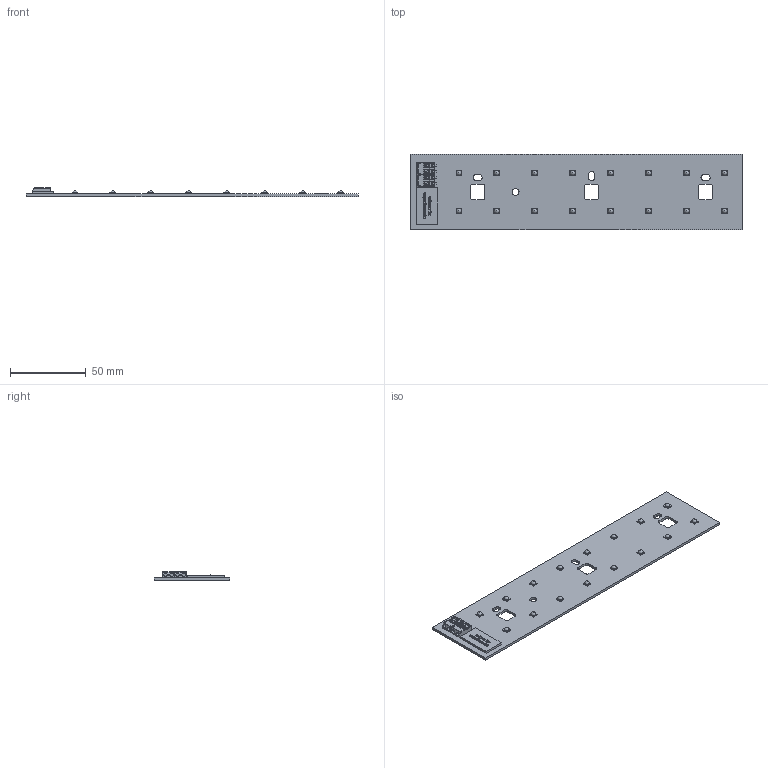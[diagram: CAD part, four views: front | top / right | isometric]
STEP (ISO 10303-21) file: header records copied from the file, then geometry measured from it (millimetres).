
FILE_DESCRIPTION(/* description */ (''),/* implementation_level */ '2;1');
FILE_NAME(/* name */ 'C:\FastFlex 2x8 and X Gen4.stp',/* time_stamp */ '2019-01-17T12:38:10+01:00',/* author */ ('nlv21627'),/* organization */ (''),/* preprocessor_version */ 'ST-DEVELOPER v16.5',/* originating_system */ 'Autodesk Inventor 2017',/* authorisation */ '');
FILE_SCHEMA (('AUTOMOTIVE_DESIGN { 1 0 10303 214 3 1 1 }'));
Length unit declared in the file: millimetre
Products named in the file (1): 4422-409-64310_simplified
Bounding box: 218.5 x 49.5 x 5.95 mm (x, y, z)
Volume: 19208.7 mm3; surface area: 23317.1 mm2
Topology: 1 solids, 65 shells, 1723 faces, 4620 edges, 3014 vertices
Faces by surface type: plane 1081, cylinder 295, bspline 199, cone 76, torus 56, sphere 16
Full cylindrical faces by diameter (mm): 0.1 x64, 4.5 x1
Entity records: 55960 total; most frequent: CARTESIAN_POINT 13860, ORIENTED_EDGE 8694, DIRECTION 7742, EDGE_CURVE 4347, LINE 3222, VECTOR 3222, VERTEX_POINT 2902, AXIS2_PLACEMENT_3D 2260
